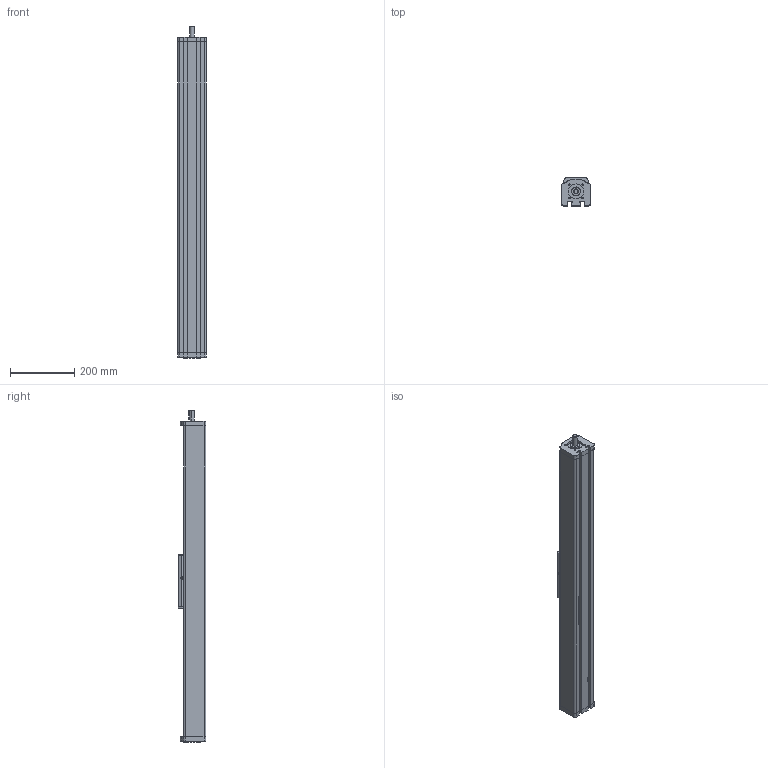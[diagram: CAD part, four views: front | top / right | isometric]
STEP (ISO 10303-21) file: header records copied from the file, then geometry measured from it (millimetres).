
FILE_DESCRIPTION (( 'STEP AP214' ), '1' );
FILE_NAME ('GGKex 90.STEP', '2022-06-27T13:23:14', ( '' ), ( '' ), 'SwSTEP 2.0', 'SolidWorks 2020', '' );
FILE_SCHEMA (( 'AUTOMOTIVE_DESIGN' ));
Length unit declared in the file: millimetre
Products named in the file (5): GGKex 90; bearing block^GGKex 90_shaft; profile^GGKex 90; carriage^GGKex 90; bearing block^GGKex 90_cap
Assembly tree (4 placements, depth 2):
  GGKex 90
    profile^GGKex 90
    carriage^GGKex 90
    bearing block^GGKex 90_shaft
    bearing block^GGKex 90_cap
Bounding box: 90 x 87 x 1036.7 mm (x, y, z)
Volume: 2770612.4 mm3; surface area: 700581.9 mm2
Topology: 6 solids, 7 shells, 271 faces, 728 edges, 469 vertices
Faces by surface type: plane 135, cylinder 114, cone 20, bspline 2
Entity records: 10286 total; most frequent: CARTESIAN_POINT 1871, DIRECTION 1462, ORIENTED_EDGE 1420, EDGE_CURVE 710, AXIS2_PLACEMENT_3D 496, VECTOR 470, LINE 470, VERTEX_POINT 469
